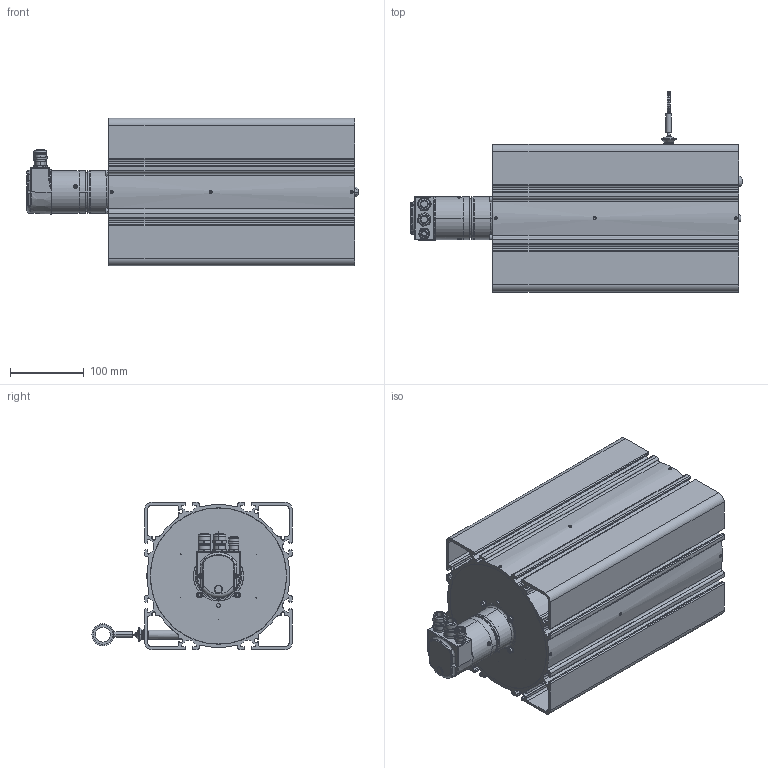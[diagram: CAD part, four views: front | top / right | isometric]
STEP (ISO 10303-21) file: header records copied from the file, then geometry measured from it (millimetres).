
FILE_DESCRIPTION((''),'2;1');
FILE_NAME('WDS-50000-P200-BH-PB_02_ASM','2024-05-27T09:34:00',('15000597'),(''),'CREO PARAMETRIC BY PTC INC, 2022164','CREO PARAMETRIC BY PTC INC, 2022164','');
FILE_SCHEMA(('AUTOMOTIVE_DESIGN { 1 0 10303 214 1 1 1 1 }'));
Products named in the file (40): TELESO_SENZORU_50M_P200_AF0; BOCNICE_VNEJSI_P200_AF0; LOZISKO_6000_10X26X8_AF1; PREDNI_STENA_P200_DIRA_S_POJIST_AF0; SROUB_ISO7380_COC_HEX_C_M5X10_AF0; TRUBKA_PRUCHODKY_P200_AF0; PRUCHODKA_P200; GUMOVY_VLNOVEC; STIRATKO_LANKO_FORMA_0I8; DUTY_NYT_A_3X10; GP_7I5X2I0X25_EXT_EPDM60; LANKO_7X7_0I63_0I8_AF0; OKO_LANKA_TRE; CU-TRUBICKA_2X1I4X5_NEPOUZIVAT_AF0; SPOJKA_GS5_PR6_2I1_AF0; KOLIK_PRUZNY_2X8_AF0; PODLOZKA_M4_VEJIROVA_AF0; PODLOZKA_M4_VEJIROVA_AF1; PODLOZKA_M4_VEJIROVA_AF2; PODLOZKA_M4_VEJIROVA_AF3; SROUB_ISO4762_VALC_HEX_M4X6_AF0; SROUB_ISO4762_VALC_HEX_M4X6_AF1; SROUB_ISO4762_VALC_HEX_M4X6_AF2; SROUB_ISO4762_VALC_HEX_M4X6_AF3; SROUB_ISO7380_COC_HEX_M8X8_AF0; PRIRUBA_SYNCHRO_P96_P200_AF0; SPOJKA_KRIZ_AF0; SROUB_ISO4029_STAV_HEX_M4X4; SROUB_ISO4029_STAV_HEX_M4X4_AF0; SROUB_ISO4029_STAV_HEX_M4X4_AF1; SROUB_ISO4029_STAV_HEX_M4X4_AF2; SROUB_ISO4029_STAV_HEX_M4X4_AF3; SROUB_ISO4029_STAV_HEX_M4X4_AF4; SROUB_ISO4029_STAV_HEX_M4X4_AF5; SROUB_ISO4029_STAV_HEX_M4X4_AF6; SROUB_ISO4029_STAV_HEX_M4X4_AF7; SPOJKA_GS5_PR6_AF0; SROUB_ISO4029_STAV_HEX_M3X3_AF0; BAU_SYNCHRO_PB_EN580CIMLSU06GH2; WDS-50000-P200-BH-PB_02_ASM
Assembly tree (41 placements, depth 2):
  WDS-50000-P200-BH-PB_02_ASM
    TELESO_SENZORU_50M_P200_AF0
    BOCNICE_VNEJSI_P200_AF0
    LOZISKO_6000_10X26X8_AF1
    PREDNI_STENA_P200_DIRA_S_POJIST_AF0
    SROUB_ISO7380_COC_HEX_C_M5X10_AF0
    TRUBKA_PRUCHODKY_P200_AF0
    PRUCHODKA_P200
    GUMOVY_VLNOVEC
    STIRATKO_LANKO_FORMA_0I8
    DUTY_NYT_A_3X10
    GP_7I5X2I0X25_EXT_EPDM60
    LANKO_7X7_0I63_0I8_AF0
    OKO_LANKA_TRE
    CU-TRUBICKA_2X1I4X5_NEPOUZIVAT_AF0
    SPOJKA_GS5_PR6_2I1_AF0
    KOLIK_PRUZNY_2X8_AF0
    PODLOZKA_M4_VEJIROVA_AF0
    PODLOZKA_M4_VEJIROVA_AF1
    PODLOZKA_M4_VEJIROVA_AF2
    PODLOZKA_M4_VEJIROVA_AF3
    SROUB_ISO4762_VALC_HEX_M4X6_AF0
    SROUB_ISO4762_VALC_HEX_M4X6_AF1
    SROUB_ISO4762_VALC_HEX_M4X6_AF2
    SROUB_ISO4762_VALC_HEX_M4X6_AF3
    SROUB_ISO7380_COC_HEX_M8X8_AF0
    PRIRUBA_SYNCHRO_P96_P200_AF0
    SPOJKA_KRIZ_AF0
    SROUB_ISO4029_STAV_HEX_M4X4  x3
    SROUB_ISO4029_STAV_HEX_M4X4_AF0
    SROUB_ISO4029_STAV_HEX_M4X4_AF1
    SROUB_ISO4029_STAV_HEX_M4X4_AF2
    SROUB_ISO4029_STAV_HEX_M4X4_AF3
    SROUB_ISO4029_STAV_HEX_M4X4_AF4
    SROUB_ISO4029_STAV_HEX_M4X4_AF5
    SROUB_ISO4029_STAV_HEX_M4X4_AF6
    SROUB_ISO4029_STAV_HEX_M4X4_AF7
    SPOJKA_GS5_PR6_AF0
    SROUB_ISO4029_STAV_HEX_M3X3_AF0
    BAU_SYNCHRO_PB_EN580CIMLSU06GH2
Bounding box: 450.3 x 271.7 x 200 mm (x, y, z)
Volume: 1941010.8 mm3; surface area: 972791.2 mm2
Topology: 33 solids, 70 shells, 1663 faces, 4346 edges, 2776 vertices
Faces by surface type: plane 636, cylinder 591, cone 261, torus 138, bspline 17, revolution 16, sphere 4
Entity records: 75578 total; most frequent: CARTESIAN_POINT 19412, DIRECTION 8616, ORIENTED_EDGE 8236, PRESENTATION_STYLE_ASSIGNMENT 4348, STYLED_ITEM 4348, EDGE_CURVE 4208, CURVE_STYLE 4202, AXIS2_PLACEMENT_3D 3443
